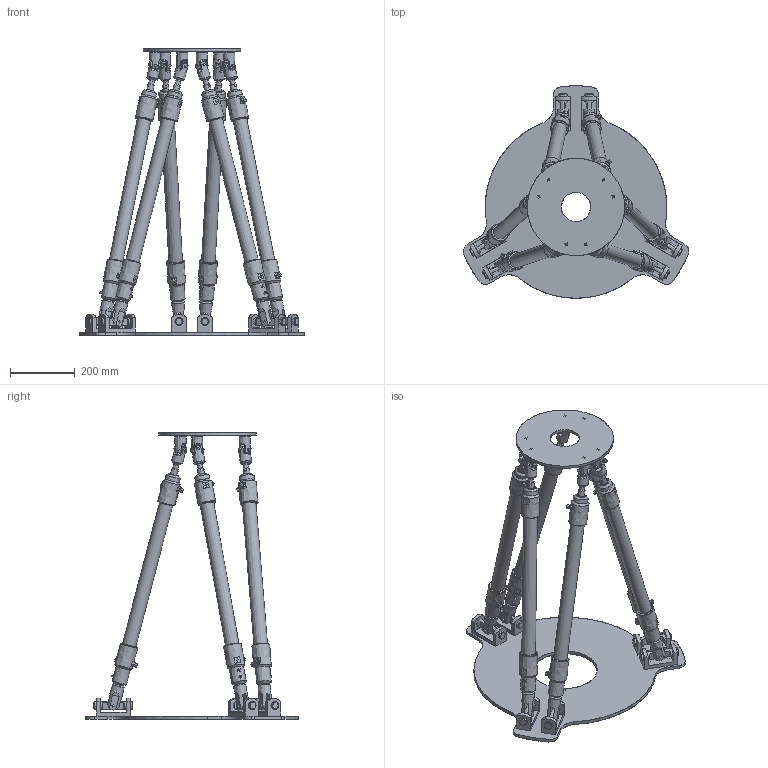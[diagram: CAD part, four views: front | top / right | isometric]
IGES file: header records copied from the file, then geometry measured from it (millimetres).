
Start section: C
Global section: file name: Hexapod.igs; native system: By Siemens PLM Incorporated; preprocessor: XPlus GENERIC/IGES 16.0.42; author: Author; organization: Title; date: 20140526.105218; units: millimetre
Bounding box: 696.09 x 654.79 x 884.17 mm (x, y, z)
Surface area: 2912515.2 mm2 (no closed solid volume)
Topology: 0 solids, 0 shells, 2602 faces, 13830 edges, 13782 vertices
Faces by surface type: bspline 2602
